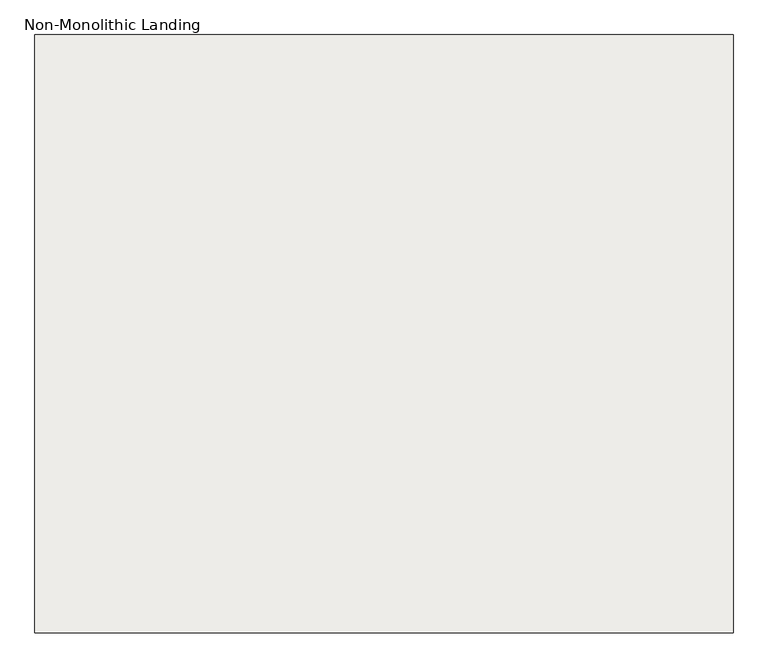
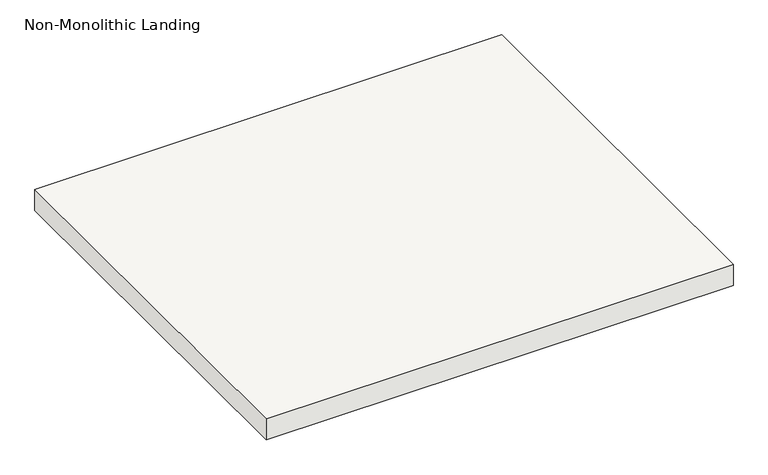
"""IFC4 building model written with IfcOpenShell, lengths in millimetres: slab geometry, Non-Monolithic Landing."""

from ifc_helpers import new_model, si_unit, frame, origin, place, context, project, spatial, polyline, outline, extrude, source, transform, mapped, element, save


def non_monolithic_landing_04b1c395(model_context):
    return source(origin(), model_context, "Body", "SweptSolid", [
        extrude(outline(polyline([(113210.2288146, -34679.081782), (114277.0288146, -34679.081782), (114277.0288146, -35593.481782), (113210.2288146, -35593.481782), (113210.2288146, -34679.081782)])), frame((0.0, 0.0, 2195.0947368), z_axis=(0.0, 0.0, 1.0), x_axis=(1.0, 0.0, 0.0)), (0.0, 0.0, 1.0), 50.8),
    ])


if __name__ == "__main__":
    model = new_model("IFC4")
    model_context = context("Model", 3, world=origin())
    ifc_project = project(units=[si_unit("LENGTHUNIT", "METRE", prefix="MILLI")], contexts=[model_context])
    site = spatial("IfcSite", under=ifc_project)
    building = spatial("IfcBuilding", under=site)
    placement = place(None, origin())
    non_monolithic_landing_shape = non_monolithic_landing_04b1c395(model_context)
    element("IfcSlab", 1, ObjectType="Non-Monolithic Landing", at=placement, inside=building, context=model_context, shape_type="MappedRepresentation", body=[
        mapped(non_monolithic_landing_shape, transform((0.0, 0.0, 0.0), x_axis=(1.0, 0.0, 0.0), y_axis=(0.0, 1.0, 0.0), z_axis=(0.0, 0.0, 1.0))),
    ])
    save(model, "model.ifc")
